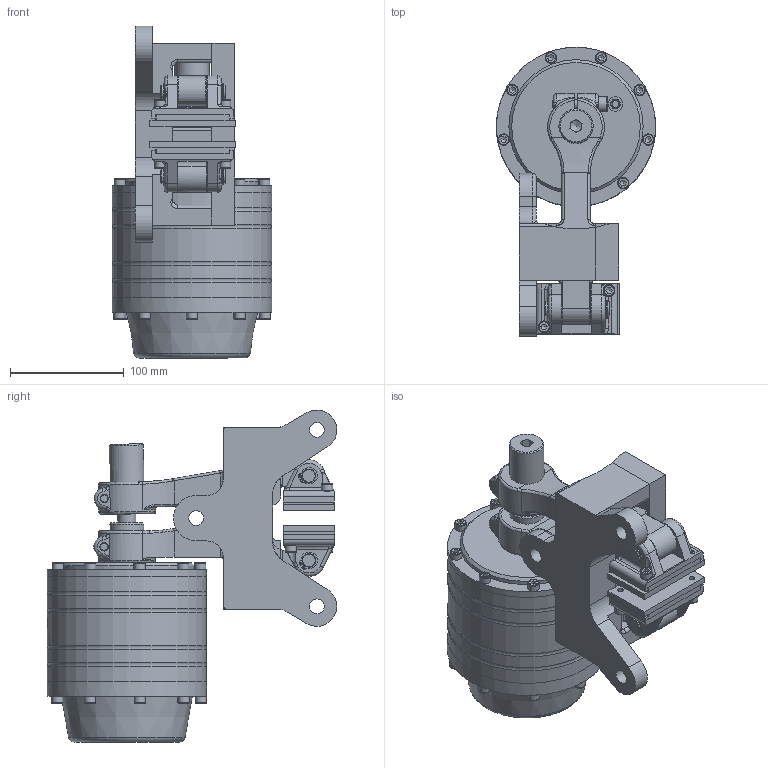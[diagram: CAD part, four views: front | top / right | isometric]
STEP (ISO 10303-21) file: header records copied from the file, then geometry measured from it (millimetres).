
FILE_DESCRIPTION(/* description */ ('','CAx-IF Rec.Pracs.---Representation and Presentation of Product Manufacturing Information (PMI)---4.0---2014-10-13'),/* implementation_level */ '2;1');
FILE_NAME(/* name */ 'X:\INVENTOR\DISEGNI\19_Pinze\STEP x Sito\PNEUM-DUO\19_56_023_03 PPF-PN023_12,7.stp',/* time_stamp */ '2018-02-16T11:36:30+01:00',/* author */ ('stefano'),/* organization */ (''),/* preprocessor_version */ 'ST-DEVELOPER v17',/* originating_system */ 'Autodesk Inventor 2018',/* authorisation */ '');
FILE_SCHEMA (('AP242_MANAGED_MODEL_BASED_3D_ENGINEERING_MIM_LF { 1 0 10303 442 1 1 4 }'));
Length unit declared in the file: millimetre
Products named in the file (1): 19_56_023_03 PPF-PN023_12,7_Substitute_1
Bounding box: 140 x 254.49 x 291.65 mm (x, y, z)
Volume: 2408168.8 mm3; surface area: 404505.9 mm2
Topology: 5 solids, 5 shells, 1211 faces, 3384 edges, 2265 vertices
Faces by surface type: plane 639, cylinder 325, cone 94, torus 93, bspline 60
Full cylindrical faces by diameter (mm): 1.7 x14, 3 x4, 4.134 x3, 4.917 x8, 5 x1, 6 x7, 6.917 x1, 7.25 x6, 8 x3, 8.5 x2, 10 x30, 10.5 x3, 11.5 x4, 12 x12, 12.5 x1, 13 x8, 13.3 x6, 13.5 x2, 14 x12, 14.95 x2, 16 x6, 16.5 x2, 19 x1, 19.5 x8, 22 x2, 22.6 x1, 24 x2, 25 x1, 26.5 x2, 28 x1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
Entity records: 45846 total; most frequent: CARTESIAN_POINT 13117, ORIENTED_EDGE 6678, DIRECTION 6665, EDGE_CURVE 3339, AXIS2_PLACEMENT_3D 2574, VERTEX_POINT 2265, LINE 1517, VECTOR 1517
